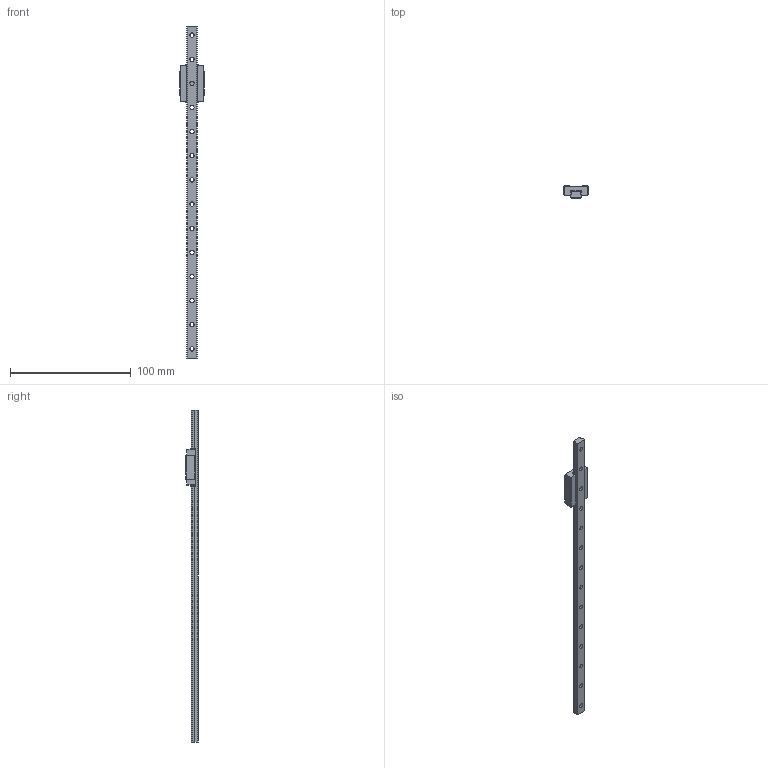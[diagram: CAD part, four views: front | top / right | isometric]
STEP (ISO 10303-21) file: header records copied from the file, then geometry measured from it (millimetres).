
FILE_DESCRIPTION(('STEP AP203'),'1');
FILE_NAME('//192.168.1.1/share/s-4 技術開発/s-4-4_CAD/s-4-4-3_見直し済み/015 修正済み/AMG/AMG_TOP/AMG9-B1-275.step','2022-03-11T05:21:50',(' '),(' '),'Spatial InterOp 3D',' ',' ');
FILE_SCHEMA(('CONFIG_CONTROL_DESIGN'));
Length unit declared in the file: millimetre
Products named in the file (2): 1; 2
Bounding box: 20 x 10 x 275 mm (x, y, z)
Volume: 14702.4 mm3; surface area: 11296.5 mm2
Topology: 2 solids, 2 shells, 126 faces, 328 edges, 220 vertices
Faces by surface type: plane 74, cylinder 48, cone 4
Full cylindrical faces by diameter (mm): 2.5 x8, 3.5 x14, 6 x14
Entity records: 3638 total; most frequent: DIRECTION 614, CARTESIAN_POINT 596, ORIENTED_EDGE 532, EDGE_CURVE 266, AXIS2_PLACEMENT_3D 220, EDGE_LOOP 208, VERTEX_POINT 202, LINE 174
